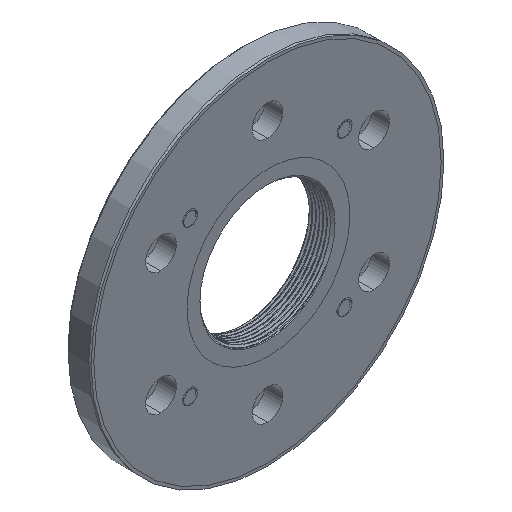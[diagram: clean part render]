
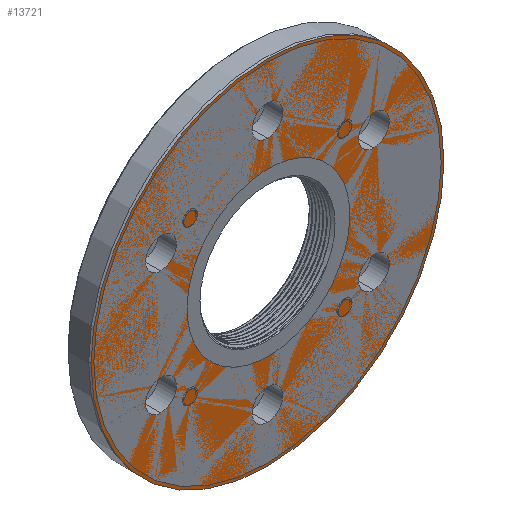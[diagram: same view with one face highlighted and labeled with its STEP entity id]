
A CAD part, isometric view. The second image highlights one B-rep face of the part: STEP entity #13721.
In plain terms, the highlighted planar face has unit normal (0, 1, 0).
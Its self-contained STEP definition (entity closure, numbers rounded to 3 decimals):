
#13519=CARTESIAN_POINT('',(20.689,0.,11.945));
#13520=DIRECTION('',(0.,1.,0.));
#13521=DIRECTION('',(0.,0.,1.));
#13522=AXIS2_PLACEMENT_3D('',#13519,#13520,#13521);
#13524=CARTESIAN_POINT('',(20.689,0.,11.945));
#13525=DIRECTION('',(0.,1.,0.));
#13526=DIRECTION('',(0.,0.,-1.));
#13527=AXIS2_PLACEMENT_3D('',#13524,#13525,#13526);
#13529=CARTESIAN_POINT('',(-20.689,0.,11.945));
#13530=DIRECTION('',(0.,1.,0.));
#13531=DIRECTION('',(0.,0.,1.));
#13532=AXIS2_PLACEMENT_3D('',#13529,#13530,#13531);
#13534=CARTESIAN_POINT('',(-20.689,0.,11.945));
#13535=DIRECTION('',(0.,1.,0.));
#13536=DIRECTION('',(0.,0.,-1.));
#13537=AXIS2_PLACEMENT_3D('',#13534,#13535,#13536);
#13539=CARTESIAN_POINT('',(0.,0.,-23.89));
#13540=DIRECTION('',(0.,1.,0.));
#13541=DIRECTION('',(0.,0.,1.));
#13542=AXIS2_PLACEMENT_3D('',#13539,#13540,#13541);
#13544=CARTESIAN_POINT('',(0.,0.,-23.89));
#13545=DIRECTION('',(0.,1.,0.));
#13546=DIRECTION('',(0.,0.,-1.));
#13547=AXIS2_PLACEMENT_3D('',#13544,#13545,#13546);
#13549=CARTESIAN_POINT('',(20.689,0.,-11.945));
#13550=DIRECTION('',(0.,1.,0.));
#13551=DIRECTION('',(0.,0.,1.));
#13552=AXIS2_PLACEMENT_3D('',#13549,#13550,#13551);
#13554=CARTESIAN_POINT('',(20.689,0.,-11.945));
#13555=DIRECTION('',(0.,1.,0.));
#13556=DIRECTION('',(0.,0.,-1.));
#13557=AXIS2_PLACEMENT_3D('',#13554,#13555,#13556);
#13559=CARTESIAN_POINT('',(-20.689,0.,-11.945));
#13560=DIRECTION('',(0.,1.,0.));
#13561=DIRECTION('',(0.,0.,1.));
#13562=AXIS2_PLACEMENT_3D('',#13559,#13560,#13561);
#13564=CARTESIAN_POINT('',(-20.689,0.,-11.945));
#13565=DIRECTION('',(0.,1.,0.));
#13566=DIRECTION('',(0.,0.,-1.));
#13567=AXIS2_PLACEMENT_3D('',#13564,#13565,#13566);
#13569=CARTESIAN_POINT('',(0.,0.,23.89));
#13570=DIRECTION('',(0.,1.,0.));
#13571=DIRECTION('',(0.,0.,1.));
#13572=AXIS2_PLACEMENT_3D('',#13569,#13570,#13571);
#13574=CARTESIAN_POINT('',(0.,0.,23.89));
#13575=DIRECTION('',(0.,1.,0.));
#13576=DIRECTION('',(0.,0.,-1.));
#13577=AXIS2_PLACEMENT_3D('',#13574,#13575,#13576);
#13579=CARTESIAN_POINT('',(0.,0.,0.));
#13580=DIRECTION('',(0.,-1.,0.));
#13581=DIRECTION('',(1.,0.,0.));
#13582=AXIS2_PLACEMENT_3D('',#13579,#13580,#13581);
#13584=CARTESIAN_POINT('',(0.,0.,0.));
#13585=DIRECTION('',(0.,-1.,0.));
#13586=DIRECTION('',(-1.,0.,0.));
#13587=AXIS2_PLACEMENT_3D('',#13584,#13585,#13586);
#13589=CARTESIAN_POINT('',(10.021,0.,-12.473));
#13590=CARTESIAN_POINT('',(9.252,0.,-13.075));
#13591=CARTESIAN_POINT('',(7.633,0.,-14.119));
#13592=CARTESIAN_POINT('',(4.922,0.,-15.24));
#13593=CARTESIAN_POINT('',(2.074,0.,-15.84));
#13594=CARTESIAN_POINT('',(-0.818,0.,-15.919));
#13595=CARTESIAN_POINT('',(-3.711,0.,-15.461));
#13596=CARTESIAN_POINT('',(-6.408,0.,-14.511));
#13597=CARTESIAN_POINT('',(-8.939,0.,-13.06));
#13598=CARTESIAN_POINT('',(-11.129,0.,-11.199));
#13599=CARTESIAN_POINT('',(-12.961,0.,-8.949));
#13600=CARTESIAN_POINT('',(-13.876,0.,-7.275));
#13601=CARTESIAN_POINT('',(-14.26,0.,-6.387));
#13603=CARTESIAN_POINT('',(0.,0.,0.));
#13604=DIRECTION('',(0.,1.,0.));
#13605=DIRECTION('',(-0.913,0.,-0.409));
#13606=AXIS2_PLACEMENT_3D('',#13603,#13604,#13605);
#13608=CARTESIAN_POINT('',(-7.908,0.,13.476));
#13609=CARTESIAN_POINT('',(-7.09,0.,13.971));
#13610=CARTESIAN_POINT('',(-5.389,0.,14.798));
#13611=CARTESIAN_POINT('',(-2.608,0.,15.572));
#13612=CARTESIAN_POINT('',(0.273,0.,15.822));
#13613=CARTESIAN_POINT('',(3.128,0.,15.551));
#13614=CARTESIAN_POINT('',(5.936,0.,14.751));
#13615=CARTESIAN_POINT('',(8.508,0.,13.474));
#13616=CARTESIAN_POINT('',(10.816,0.,11.755));
#13617=CARTESIAN_POINT('',(12.795,0.,9.63));
#13618=CARTESIAN_POINT('',(14.381,0.,7.133));
#13619=CARTESIAN_POINT('',(15.114,0.,5.307));
#13620=CARTESIAN_POINT('',(15.399,0.,4.345));
#13622=CARTESIAN_POINT('',(15.399,0.,4.345));
#13623=CARTESIAN_POINT('',(15.684,0.,3.333));
#13624=CARTESIAN_POINT('',(16.048,0.,1.297));
#13625=CARTESIAN_POINT('',(15.998,0.,-1.836));
#13626=CARTESIAN_POINT('',(15.334,0.,-4.911));
#13627=CARTESIAN_POINT('',(14.101,0.,-7.774));
#13628=CARTESIAN_POINT('',(12.319,0.,-10.367));
#13629=CARTESIAN_POINT('',(10.841,0.,-11.814));
#13630=CARTESIAN_POINT('',(10.021,0.,-12.473));
#13632=CARTESIAN_POINT('',(-34.29,0.,0.));
#13633=CARTESIAN_POINT('',(34.29,0.,0.));
#13634=VERTEX_POINT('',#13632);
#13635=VERTEX_POINT('',#13633);
#13636=VERTEX_POINT('',#13601);
#13637=VERTEX_POINT('',#13589);
#13638=VERTEX_POINT('',#13622);
#13639=VERTEX_POINT('',#13608);
#13640=CARTESIAN_POINT('',(20.689,0.,8.96));
#13641=CARTESIAN_POINT('',(20.689,0.,14.93));
#13642=VERTEX_POINT('',#13640);
#13643=VERTEX_POINT('',#13641);
#13644=CARTESIAN_POINT('',(-20.689,0.,8.96));
#13645=CARTESIAN_POINT('',(-20.689,0.,14.93));
#13646=VERTEX_POINT('',#13644);
#13647=VERTEX_POINT('',#13645);
#13648=CARTESIAN_POINT('',(0.,0.,-26.875));
#13649=CARTESIAN_POINT('',(0.,0.,-20.905));
#13650=VERTEX_POINT('',#13648);
#13651=VERTEX_POINT('',#13649);
#13652=CARTESIAN_POINT('',(20.689,0.,-14.93));
#13653=CARTESIAN_POINT('',(20.689,0.,-8.96));
#13654=VERTEX_POINT('',#13652);
#13655=VERTEX_POINT('',#13653);
#13656=CARTESIAN_POINT('',(-20.689,0.,-14.93));
#13657=CARTESIAN_POINT('',(-20.689,0.,-8.96));
#13658=VERTEX_POINT('',#13656);
#13659=VERTEX_POINT('',#13657);
#13660=CARTESIAN_POINT('',(0.,0.,20.905));
#13661=CARTESIAN_POINT('',(0.,0.,26.875));
#13662=VERTEX_POINT('',#13660);
#13663=VERTEX_POINT('',#13661);
#13664=CARTESIAN_POINT('',(0.,0.,0.));
#13665=DIRECTION('',(0.,1.,0.));
#13666=DIRECTION('',(-1.,0.,0.));
#13667=AXIS2_PLACEMENT_3D('',#13664,#13665,#13666);
#13668=PLANE('',#13667);
#13670=ORIENTED_EDGE('',*,*,#13669,.T.);
#13672=ORIENTED_EDGE('',*,*,#13671,.T.);
#13673=EDGE_LOOP('',(#13670,#13672));
#13674=FACE_OUTER_BOUND('',#13673,.F.);
#13676=ORIENTED_EDGE('',*,*,#13675,.T.);
#13678=ORIENTED_EDGE('',*,*,#13677,.T.);
#13679=EDGE_LOOP('',(#13676,#13678));
#13680=FACE_BOUND('',#13679,.F.);
#13682=ORIENTED_EDGE('',*,*,#13681,.T.);
#13684=ORIENTED_EDGE('',*,*,#13683,.T.);
#13685=EDGE_LOOP('',(#13682,#13684));
#13686=FACE_BOUND('',#13685,.F.);
#13688=ORIENTED_EDGE('',*,*,#13687,.T.);
#13690=ORIENTED_EDGE('',*,*,#13689,.T.);
#13691=EDGE_LOOP('',(#13688,#13690));
#13692=FACE_BOUND('',#13691,.F.);
#13694=ORIENTED_EDGE('',*,*,#13693,.T.);
#13696=ORIENTED_EDGE('',*,*,#13695,.T.);
#13697=EDGE_LOOP('',(#13694,#13696));
#13698=FACE_BOUND('',#13697,.F.);
#13700=ORIENTED_EDGE('',*,*,#13699,.T.);
#13702=ORIENTED_EDGE('',*,*,#13701,.T.);
#13703=EDGE_LOOP('',(#13700,#13702));
#13704=FACE_BOUND('',#13703,.F.);
#13706=ORIENTED_EDGE('',*,*,#13705,.T.);
#13708=ORIENTED_EDGE('',*,*,#13707,.T.);
#13709=EDGE_LOOP('',(#13706,#13708));
#13710=FACE_BOUND('',#13709,.F.);
#13712=ORIENTED_EDGE('',*,*,#13711,.T.);
#13714=ORIENTED_EDGE('',*,*,#13713,.T.);
#13716=ORIENTED_EDGE('',*,*,#13715,.T.);
#13718=ORIENTED_EDGE('',*,*,#13717,.T.);
#13719=EDGE_LOOP('',(#13712,#13714,#13716,#13718));
#13720=FACE_BOUND('',#13719,.F.);
#13721=ADVANCED_FACE('',(#13674,#13680,#13686,#13692,#13698,#13704,#13710,
#13720),#13668,.T.);
#13523=CIRCLE('',#13522,2.985);
#13528=CIRCLE('',#13527,2.985);
#13533=CIRCLE('',#13532,2.985);
#13538=CIRCLE('',#13537,2.985);
#13543=CIRCLE('',#13542,2.985);
#13548=CIRCLE('',#13547,2.985);
#13553=CIRCLE('',#13552,2.985);
#13558=CIRCLE('',#13557,2.985);
#13563=CIRCLE('',#13562,2.985);
#13568=CIRCLE('',#13567,2.985);
#13573=CIRCLE('',#13572,2.985);
#13578=CIRCLE('',#13577,2.985);
#13583=CIRCLE('',#13582,34.29);
#13588=CIRCLE('',#13587,34.29);
#13602=B_SPLINE_CURVE_WITH_KNOTS('',3,(#13589,#13590,#13591,#13592,#13593,
#13594,#13595,#13596,#13597,#13598,#13599,#13600,#13601),.UNSPECIFIED.,.F.,.F.,(
4,1,1,1,1,1,1,1,1,1,4),(0.,0.1,0.2,0.3,0.4,0.5,0.6,0.7,0.8,
0.9,1.),.UNSPECIFIED.);
#13607=CIRCLE('',#13606,15.625);
#13621=B_SPLINE_CURVE_WITH_KNOTS('',3,(#13608,#13609,#13610,#13611,#13612,
#13613,#13614,#13615,#13616,#13617,#13618,#13619,#13620),.UNSPECIFIED.,.F.,.F.,(
4,1,1,1,1,1,1,1,1,1,4),(0.,0.1,0.2,0.3,0.4,0.5,0.6,0.7,0.8,
0.9,1.),.UNSPECIFIED.);
#13631=B_SPLINE_CURVE_WITH_KNOTS('',3,(#13622,#13623,#13624,#13625,#13626,
#13627,#13628,#13629,#13630),.UNSPECIFIED.,.F.,.F.,(4,1,1,1,1,1,4),(0.,
0.167,0.333,0.5,0.667,0.833,
1.),.UNSPECIFIED.);
#13669=EDGE_CURVE('',#13635,#13634,#13583,.T.);
#13671=EDGE_CURVE('',#13634,#13635,#13588,.T.);
#13675=EDGE_CURVE('',#13647,#13646,#13533,.T.);
#13677=EDGE_CURVE('',#13646,#13647,#13538,.T.);
#13681=EDGE_CURVE('',#13651,#13650,#13543,.T.);
#13683=EDGE_CURVE('',#13650,#13651,#13548,.T.);
#13687=EDGE_CURVE('',#13655,#13654,#13553,.T.);
#13689=EDGE_CURVE('',#13654,#13655,#13558,.T.);
#13693=EDGE_CURVE('',#13659,#13658,#13563,.T.);
#13695=EDGE_CURVE('',#13658,#13659,#13568,.T.);
#13699=EDGE_CURVE('',#13663,#13662,#13573,.T.);
#13701=EDGE_CURVE('',#13662,#13663,#13578,.T.);
#13705=EDGE_CURVE('',#13643,#13642,#13523,.T.);
#13707=EDGE_CURVE('',#13642,#13643,#13528,.T.);
#13711=EDGE_CURVE('',#13637,#13636,#13602,.T.);
#13713=EDGE_CURVE('',#13636,#13639,#13607,.T.);
#13715=EDGE_CURVE('',#13639,#13638,#13621,.T.);
#13717=EDGE_CURVE('',#13638,#13637,#13631,.T.);
